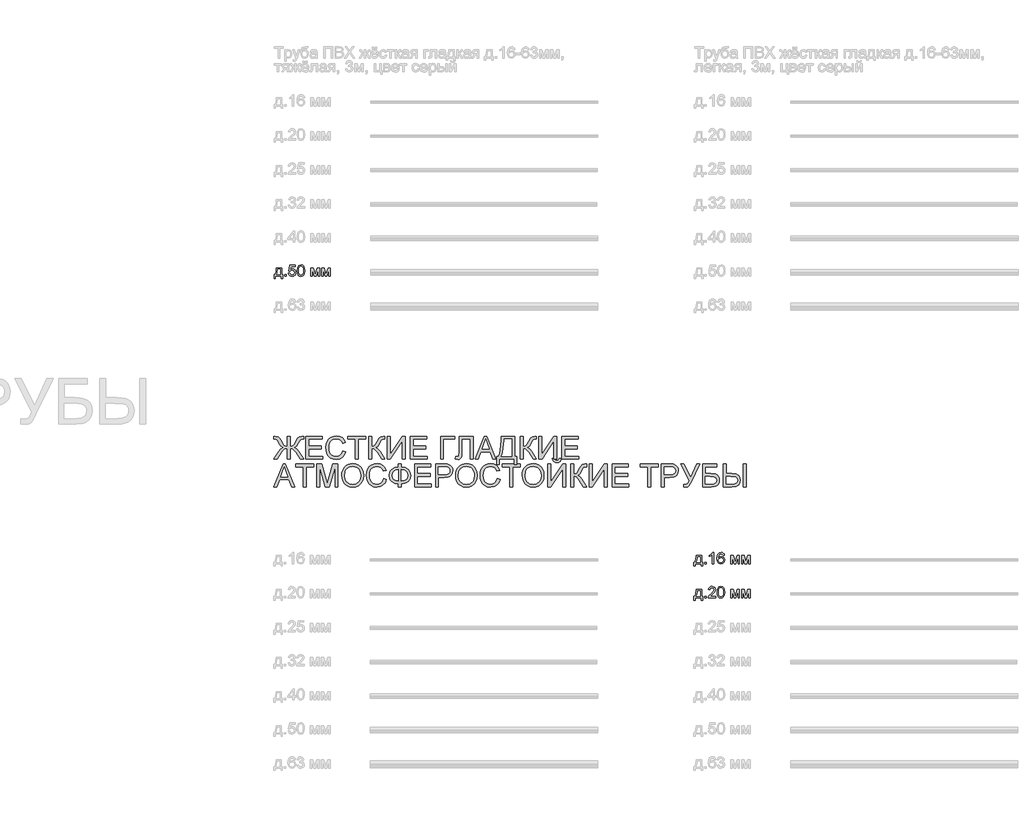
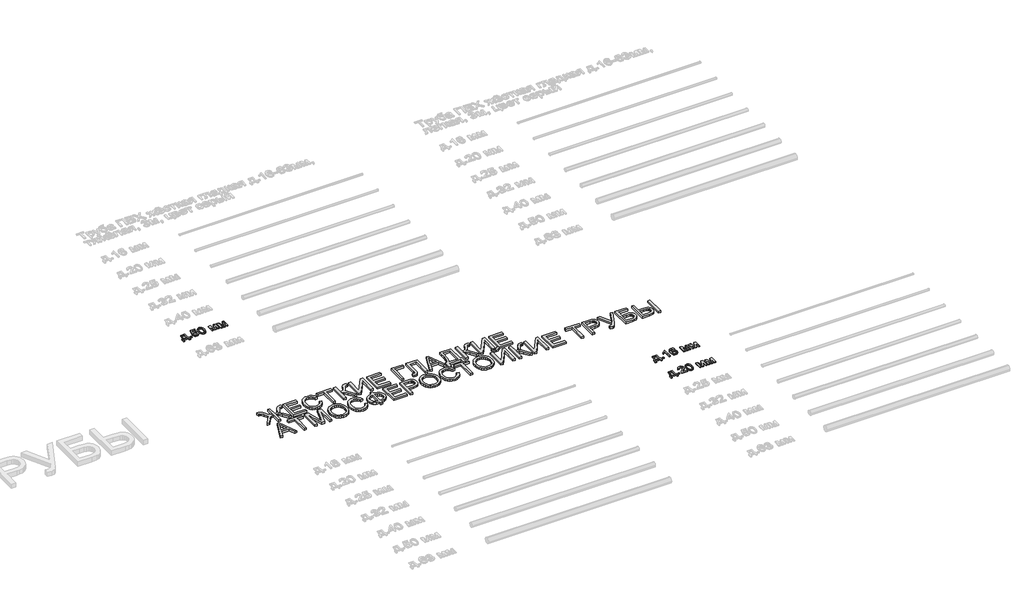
# One storey, part 88 of 98: 4 proxies.
"""IFC4 building model written with IfcOpenShell, lengths in millimetres."""

from ifc_helpers import new_model, si_unit, origin, origin_with_axes, place, context, project, spatial, polyline, outline, extrude, element, save

model = new_model("IFC4")

# Units and contexts
model_context = context("Model", 3, world=origin())
ifc_project = project(units=[si_unit("LENGTHUNIT", "METRE", prefix="MILLI")], contexts=[model_context])

# Site, building, storey
site = spatial("IfcSite", under=ifc_project)
building = spatial("IfcBuilding", under=site)
storey = spatial("IfcBuildingStorey", under=building, Name="Этаж 01", Elevation=0.0)

# Proxies
placement = place(None, origin())
element("IfcBuildingElementProxy", 1, Name="100", ObjectType="100", at=placement, inside=storey, context=model_context, shape_type="SweptSolid", body=[
    extrude(outline(polyline([(-26.9858135, -5063.7647458), (20.1030819, -5063.7647458), (20.1030819, -5124.9803098), (29.520861, -5124.9803098), (29.520861, -5157.9425366), (16.9638222, -5157.9425366), (16.9638222, -5137.5373486), (-34.8339627, -5137.5373486), (-34.8339627, -5157.9425366), (-47.3910015, -5157.9425366), (-47.3910015, -5124.9803098), (-39.5428522, -5124.9803098), (-29.8430303, -5101.031192), (-26.9858135, -5063.7647458)]), holes=[polyline([(-15.9984045, -5076.3217846), (-18.9414605, -5104.9307411), (-25.4161836, -5124.9803098), (7.5460431, -5124.9803098), (7.5460431, -5076.3217846), (-15.9984045, -5076.3217846)])]), origin_with_axes(), (0.0, 0.0, 1.0), 10.0),
    extrude(outline(polyline([(46.7867893, -5137.5373486), (46.7867893, -5124.9803098), (59.3438281, -5124.9803098), (59.3438281, -5137.5373486), (46.7867893, -5137.5373486)])), origin_with_axes(), (0.0, 0.0, 1.0), 10.0),
    extrude(outline(polyline([(79.7490161, -5110.8536412), (92.3060548, -5109.2840114), (98.6336251, -5122.2211949), (111.7547496, -5126.5499397), (120.7555958, -5125.0446892), (127.500099, -5120.5289377), (131.7123479, -5113.5238514), (133.1164308, -5104.5505964), (127.8557183, -5089.6391128), (121.2491708, -5085.5372286), (111.9509534, -5084.1699338), (100.9267563, -5086.3527004), (93.8756847, -5092.0180831), (81.3186459, -5090.4484532), (92.3060548, -5038.6506683), (140.9645801, -5038.6506683), (140.9645801, -5051.2077071), (102.4595979, -5051.2077071), (97.0885208, -5078.8724331), (106.0587101, -5073.4277796), (115.4580951, -5071.6128951), (127.190465, -5073.8631066), (136.9301408, -5080.6137412), (143.4876374, -5090.9021744), (145.6734696, -5103.7657815), (143.7053009, -5116.3228202), (137.8007949, -5127.0649745), (126.4945549, -5136.0964775), (111.7056987, -5139.1069785), (99.3724548, -5137.1725323), (89.5469399, -5131.3691938), (82.8116337, -5122.3714134), (79.7490161, -5110.8536412)])), origin_with_axes(), (0.0, 0.0, 1.0), 10.0),
    extrude(outline(polyline([(156.6608785, -5088.1185339), (160.3519612, -5059.2152718), (171.3148447, -5042.5502175), (189.6231053, -5037.0810385), (204.2893342, -5040.3184), (214.4183518, -5049.65034), (220.3044637, -5064.5127726), (222.5853321, -5088.1185339), (218.9310376, -5116.8991687), (208.0049423, -5133.6010113), (199.7735827, -5137.7304867), (189.6231053, -5139.1069785), (176.5755572, -5136.7157455), (166.6672688, -5129.5420466), (159.1624761, -5112.5520298), (156.6608785, -5088.1185339)]), holes=[polyline([(169.2179173, -5088.0940085), (170.6894453, -5107.8462059), (175.1040292, -5119.2781389), (181.6768542, -5124.7319895), (189.6231053, -5126.5499397), (197.5693564, -5124.7258581), (204.1421814, -5119.2536135), (208.5567653, -5107.8155491), (210.0282933, -5088.0940085), (208.6058162, -5068.7863351), (204.3383851, -5057.2654973), (197.7778228, -5051.5449322), (189.4759525, -5049.6380772), (181.6155405, -5051.3180717), (175.3002329, -5056.358055), (170.7384962, -5068.5962627), (169.2179173, -5088.0940085)])]), origin_with_axes(), (0.0, 0.0, 1.0), 10.0),
    extrude(outline(polyline([(275.9527468, -5063.7647458), (297.5596827, -5063.7647458), (314.2124743, -5122.8220688), (332.1651157, -5063.7647458), (352.8646093, -5063.7647458), (352.8646093, -5137.5373486), (340.3075705, -5137.5373486), (340.3075705, -5078.1366691), (322.2568273, -5137.5373486), (305.7757139, -5137.5373486), (288.5097856, -5075.291715), (288.5097856, -5137.5373486), (275.9527468, -5137.5373486), (275.9527468, -5063.7647458)])), origin_with_axes(), (0.0, 0.0, 1.0), 10.0),
    extrude(outline(polyline([(371.7001674, -5063.7647458), (393.3071033, -5063.7647458), (409.9598949, -5122.8220688), (427.9125363, -5063.7647458), (448.6120299, -5063.7647458), (448.6120299, -5137.5373486), (436.0549911, -5137.5373486), (436.0549911, -5078.1366691), (418.0042479, -5137.5373486), (401.5231345, -5137.5373486), (384.2572062, -5075.291715), (384.2572062, -5137.5373486), (371.7001674, -5137.5373486), (371.7001674, -5063.7647458)])), origin_with_axes(), (0.0, 0.0, 1.0), 10.0),
])
element("IfcBuildingElementProxy", 2, Name="100", ObjectType="100", at=placement, inside=storey, context=model_context, shape_type="SweptSolid", body=[
    extrude(outline(polyline([(3670.1856084, -7596.7269726), (3717.2745038, -7596.7269726), (3717.2745038, -7657.9425366), (3726.6922829, -7657.9425366), (3726.6922829, -7690.9047634), (3714.1352441, -7690.9047634), (3714.1352441, -7670.4995754), (3662.3374592, -7670.4995754), (3662.3374592, -7690.9047634), (3649.7804204, -7690.9047634), (3649.7804204, -7657.9425366), (3657.6285697, -7657.9425366), (3667.3283916, -7633.9934187), (3670.1856084, -7596.7269726)]), holes=[polyline([(3681.1730173, -7609.2840114), (3678.2299614, -7637.8929679), (3671.7552383, -7657.9425366), (3704.717465, -7657.9425366), (3704.717465, -7609.2840114), (3681.1730173, -7609.2840114)])]), origin_with_axes(), (0.0, 0.0, 1.0), 10.0),
    extrude(outline(polyline([(3743.9582112, -7670.4995754), (3743.9582112, -7657.9425366), (3756.51525, -7657.9425366), (3756.51525, -7670.4995754), (3743.9582112, -7670.4995754)])), origin_with_axes(), (0.0, 0.0, 1.0), 10.0),
    extrude(outline(polyline([(3824.0093333, -7670.4995754), (3811.4522946, -7670.4995754), (3811.4522946, -7592.2142868), (3799.5574434, -7600.6878354), (3786.338217, -7607.0276685), (3786.338217, -7595.1573428), (3804.7445795, -7583.4096444), (3815.9159294, -7570.0432652), (3824.0093333, -7570.0432652), (3824.0093333, -7670.4995754)])), origin_with_axes(), (0.0, 0.0, 1.0), 10.0),
    extrude(outline(polyline([(3918.1871241, -7596.7269726), (3905.6300853, -7598.2966025), (3900.8721449, -7587.8242283), (3888.2905806, -7582.600304), (3876.9598152, -7585.6414618), (3868.3881647, -7597.0580664), (3864.8197093, -7619.4375545), (3875.8929574, -7609.4189014), (3889.6149558, -7606.1447517), (3901.2155014, -7608.3827005), (3910.9521115, -7615.0965469), (3917.5555933, -7625.3543232), (3919.7567539, -7638.2240617), (3915.6119501, -7655.5513036), (3904.2076083, -7667.8140368), (3887.7510204, -7672.0692052), (3873.5047901, -7669.2487766), (3862.1586962, -7660.7874907), (3854.736677, -7645.8514817), (3852.2626706, -7623.6068837), (3855.0095228, -7598.5970394), (3863.2500795, -7581.496658), (3874.5011372, -7572.9066134), (3889.0753956, -7570.0432652), (3900.0934613, -7571.8152302), (3908.9164978, -7577.131125), (3915.0969153, -7585.5740168), (3918.1871241, -7596.7269726)]), holes=[polyline([(3864.8197093, -7638.0278579), (3867.7259771, -7648.9049023), (3875.451499, -7656.8021024), (3886.7700017, -7659.5121665), (3895.0565437, -7658.1080835), (3901.5711207, -7653.8958347), (3905.7925665, -7647.2739588), (3907.1997152, -7638.6409946), (3905.8109606, -7630.3544527), (3901.6446971, -7624.0360794), (3895.0197555, -7620.0353627), (3886.2549669, -7618.7017905), (3871.0614405, -7624.0360794), (3866.3801421, -7630.2011685), (3864.8197093, -7638.0278579)])]), origin_with_axes(), (0.0, 0.0, 1.0), 10.0),
    extrude(outline(polyline([(3973.1241687, -7596.7269726), (3994.7311046, -7596.7269726), (4011.3838962, -7655.7842956), (4029.3365376, -7596.7269726), (4050.0360312, -7596.7269726), (4050.0360312, -7670.4995754), (4037.4789924, -7670.4995754), (4037.4789924, -7611.0988959), (4019.4282492, -7670.4995754), (4002.9471358, -7670.4995754), (3985.6812075, -7608.2539418), (3985.6812075, -7670.4995754), (3973.1241687, -7670.4995754), (3973.1241687, -7596.7269726)])), origin_with_axes(), (0.0, 0.0, 1.0), 10.0),
    extrude(outline(polyline([(4068.8715893, -7596.7269726), (4090.4785252, -7596.7269726), (4107.1313168, -7655.7842956), (4125.0839582, -7596.7269726), (4145.7834518, -7596.7269726), (4145.7834518, -7670.4995754), (4133.226413, -7670.4995754), (4133.226413, -7611.0988959), (4115.1756698, -7670.4995754), (4098.6945564, -7670.4995754), (4081.4286281, -7608.2539418), (4081.4286281, -7670.4995754), (4068.8715893, -7670.4995754), (4068.8715893, -7596.7269726)])), origin_with_axes(), (0.0, 0.0, 1.0), 10.0),
])
element("IfcBuildingElementProxy", 3, Name="100", ObjectType="100", at=placement, inside=storey, context=model_context, shape_type="SweptSolid", body=[
    extrude(outline(polyline([(3670.1856084, -7896.7269726), (3717.2745038, -7896.7269726), (3717.2745038, -7957.9425366), (3726.6922829, -7957.9425366), (3726.6922829, -7990.9047634), (3714.1352441, -7990.9047634), (3714.1352441, -7970.4995754), (3662.3374592, -7970.4995754), (3662.3374592, -7990.9047634), (3649.7804204, -7990.9047634), (3649.7804204, -7957.9425366), (3657.6285697, -7957.9425366), (3667.3283916, -7933.9934187), (3670.1856084, -7896.7269726)]), holes=[polyline([(3681.1730173, -7909.2840114), (3678.2299614, -7937.8929679), (3671.7552383, -7957.9425366), (3704.717465, -7957.9425366), (3704.717465, -7909.2840114), (3681.1730173, -7909.2840114)])]), origin_with_axes(), (0.0, 0.0, 1.0), 10.0),
    extrude(outline(polyline([(3743.9582112, -7970.4995754), (3743.9582112, -7957.9425366), (3756.51525, -7957.9425366), (3756.51525, -7970.4995754), (3743.9582112, -7970.4995754)])), origin_with_axes(), (0.0, 0.0, 1.0), 10.0),
    extrude(outline(polyline([(3841.2752616, -7957.9425366), (3841.2752616, -7970.4995754), (3775.3508081, -7970.4995754), (3776.6997088, -7961.8420858), (3784.3271288, -7948.5124948), (3800.0479527, -7933.9566305), (3821.728465, -7913.0364077), (3827.148593, -7898.8116373), (3822.0350333, -7887.2969308), (3808.6809169, -7882.600304), (3794.7627147, -7887.1865662), (3789.4774767, -7899.8662323), (3776.920438, -7898.2966025), (3779.9646615, -7886.1503653), (3786.5466835, -7877.2782778), (3796.3231475, -7871.8520184), (3808.950697, -7870.0432652), (3821.670217, -7872.0543535), (3831.4282869, -7878.0876182), (3837.6362956, -7887.1007271), (3839.7056318, -7898.0513478), (3837.4738144, -7909.9584617), (3830.0548608, -7922.2702458), (3812.0654312, -7939.4748605), (3797.6199315, -7951.5536526), (3791.9545488, -7957.9425366), (3841.2752616, -7957.9425366)])), origin_with_axes(), (0.0, 0.0, 1.0), 10.0),
    extrude(outline(polyline([(3853.8323004, -7921.0807607), (3857.5233831, -7892.1774986), (3868.4862666, -7875.5124442), (3886.7945272, -7870.0432652), (3901.4607561, -7873.2806268), (3911.5897737, -7882.6125667), (3917.4758856, -7897.4749993), (3919.7567539, -7921.0807607), (3916.1024595, -7949.8613955), (3905.1763642, -7966.563238), (3896.9450046, -7970.6927134), (3886.7945272, -7972.0692052), (3873.7469791, -7969.6779723), (3863.8386907, -7962.5042734), (3856.333898, -7945.5142565), (3853.8323004, -7921.0807607)]), holes=[polyline([(3866.3893392, -7921.0562352), (3867.8608672, -7940.8084327), (3872.2754511, -7952.2403657), (3878.8482761, -7957.6942163), (3886.7945272, -7959.5121665), (3894.7407783, -7957.6880849), (3901.3136033, -7952.2158402), (3905.7281872, -7940.7777759), (3907.1997152, -7921.0562352), (3905.7772381, -7901.7485618), (3901.509807, -7890.227724), (3894.9492447, -7884.507159), (3886.6473744, -7882.600304), (3878.7869624, -7884.2802984), (3872.4716548, -7889.3202818), (3867.9099181, -7901.5584895), (3866.3893392, -7921.0562352)])]), origin_with_axes(), (0.0, 0.0, 1.0), 10.0),
    extrude(outline(polyline([(3973.1241687, -7896.7269726), (3994.7311046, -7896.7269726), (4011.3838962, -7955.7842956), (4029.3365376, -7896.7269726), (4050.0360312, -7896.7269726), (4050.0360312, -7970.4995754), (4037.4789924, -7970.4995754), (4037.4789924, -7911.0988959), (4019.4282492, -7970.4995754), (4002.9471358, -7970.4995754), (3985.6812075, -7908.2539418), (3985.6812075, -7970.4995754), (3973.1241687, -7970.4995754), (3973.1241687, -7896.7269726)])), origin_with_axes(), (0.0, 0.0, 1.0), 10.0),
    extrude(outline(polyline([(4068.8715893, -7896.7269726), (4090.4785252, -7896.7269726), (4107.1313168, -7955.7842956), (4125.0839582, -7896.7269726), (4145.7834518, -7896.7269726), (4145.7834518, -7970.4995754), (4133.226413, -7970.4995754), (4133.226413, -7911.0988959), (4115.1756698, -7970.4995754), (4098.6945564, -7970.4995754), (4081.4286281, -7908.2539418), (4081.4286281, -7970.4995754), (4068.8715893, -7970.4995754), (4068.8715893, -7896.7269726)])), origin_with_axes(), (0.0, 0.0, 1.0), 10.0),
])
element("IfcBuildingElementProxy", 4, Name="200", ObjectType="200", at=placement, inside=storey, context=model_context, shape_type="SweptSolid", body=[
    extrude(outline(polyline([(93.8756847, -6547.6121372), (93.8756847, -6635.5114086), (112.245259, -6633.8191514), (123.7967536, -6628.7423799), (132.834388, -6616.9946815), (143.6623814, -6595.2896438), (157.8871518, -6567.2079848), (173.8041795, -6553.2529945), (196.4411849, -6547.6121372), (213.167553, -6547.9064428), (213.167553, -6572.7262148), (207.6738485, -6572.579062), (202.0329913, -6572.4319092), (190.2975556, -6573.9647508), (182.0692617, -6578.5632758), (166.8634725, -6604.2169136), (150.7992921, -6632.9362347), (131.1053426, -6645.6159008), (150.9587076, -6657.3390737), (170.1989359, -6681.5211835), (213.167553, -6748.5247575), (183.982248, -6748.5247575), (147.537405, -6691.6747265), (122.447853, -6662.7837272), (110.2157766, -6656.4561569), (93.8756847, -6654.3469668), (93.8756847, -6748.5247575), (68.7616071, -6748.5247575), (68.7616071, -6654.3469668), (55.0089519, -6655.9840416), (42.985342, -6660.8952663), (30.8881557, -6671.2143562), (16.9147713, -6689.0750271), (15.0998868, -6691.6747265), (-21.3449562, -6748.5247575), (-50.5302612, -6748.5247575), (-7.6106951, -6681.5211835), (11.8502625, -6657.2654973), (31.5810002, -6645.6159008), (12.9416457, -6634.2606098), (-4.2261807, -6604.2169136), (-19.8734282, -6578.0237155), (-27.9545694, -6574.05059), (-39.2485466, -6572.7262148), (-50.5302612, -6573.0205204), (-50.5302612, -6547.9064428), (-34.6868099, -6547.6121372), (-11.1423622, -6553.1303672), (4.4803599, -6566.9627302), (18.9749105, -6595.3386947), (29.8090352, -6617.2828558), (38.7669618, -6628.8650072), (50.2755369, -6633.7271809), (68.7616071, -6635.5114086), (68.7616071, -6547.6121372), (93.8756847, -6547.6121372)])), origin_with_axes(), (0.0, 0.0, 1.0), 20.0),
    extrude(outline(polyline([(232.0031111, -6748.5247575), (232.0031111, -6547.6121372), (376.409057, -6547.6121372), (376.409057, -6572.7262148), (257.1171887, -6572.7262148), (257.1171887, -6632.3721489), (370.1305376, -6632.3721489), (370.1305376, -6657.4862265), (257.1171887, -6657.4862265), (257.1171887, -6723.41068), (379.5483167, -6723.41068), (379.5483167, -6748.5247575), (232.0031111, -6748.5247575)])), origin_with_axes(), (0.0, 0.0, 1.0), 20.0),
    extrude(outline(polyline([(558.4861191, -6677.1065995), (583.6001967, -6683.5813227), (572.0119138, -6712.8463354), (553.8262805, -6734.2264107), (529.9384763, -6747.3046156), (501.2436807, -6751.6640172), (472.113558, -6748.365342), (448.9799119, -6738.4693163), (431.2479997, -6722.3192967), (418.323079, -6700.2586398), (410.4320102, -6674.3229591), (407.8016539, -6646.5478685), (410.7753667, -6617.2521989), (419.6965051, -6591.9541804), (434.0990852, -6571.4570219), (453.5171232, -6556.5639325), (476.5465361, -6547.4956413), (501.7832409, -6544.4728775), (529.3192083, -6548.3846894), (552.0849724, -6560.1201251), (569.3692948, -6578.9556832), (580.460937, -6604.1678626), (555.3468594, -6610.1520764), (546.6403189, -6591.8376844), (534.7454677, -6579.2745143), (519.5151531, -6572.0088449), (500.8022223, -6569.5869551), (479.2320746, -6572.2724936), (461.5124252, -6580.3291093), (448.0663383, -6592.9106736), (439.3168781, -6609.1710578), (434.5160181, -6627.5528948), (432.9157314, -6646.4988175), (434.8103237, -6669.6999087), (440.4941005, -6689.7617402), (450.1816597, -6705.9178911), (464.0875992, -6717.4019407), (480.7587849, -6724.26294), (498.7420831, -6726.5499397), (519.7052255, -6723.4352055), (537.1734889, -6714.0910028), (550.3620584, -6698.6154335), (558.4861191, -6677.1065995)])), origin_with_axes(), (0.0, 0.0, 1.0), 20.0),
    extrude(outline(polyline([(668.3602083, -6748.5247575), (668.3602083, -6572.7262148), (602.4357548, -6572.7262148), (602.4357548, -6547.6121372), (759.3987394, -6547.6121372), (759.3987394, -6572.7262148), (693.4742859, -6572.7262148), (693.4742859, -6748.5247575), (668.3602083, -6748.5247575)])), origin_with_axes(), (0.0, 0.0, 1.0), 20.0),
    extrude(outline(polyline([(787.6520766, -6547.6121372), (812.7661542, -6547.6121372), (812.7661542, -6635.5114086), (829.7684337, -6633.8498083), (840.8478132, -6628.8650072), (849.8057397, -6617.135703), (860.4436608, -6595.2405929), (874.3005492, -6567.1589339), (889.9968477, -6553.2529945), (912.4376494, -6547.6121372), (928.9187628, -6547.9064428), (928.9187628, -6573.0205204), (923.3760074, -6572.8733676), (917.833252, -6572.7262148), (906.3308083, -6574.234531), (898.2128789, -6578.7594795), (883.3013954, -6604.609321), (865.5204323, -6636.1000198), (848.1809276, -6646.4988175), (867.5683087, -6657.8541085), (886.6859098, -6681.5211835), (928.9187628, -6748.5247575), (899.7825088, -6748.5247575), (864.0734298, -6691.9199812), (838.9348268, -6662.3667943), (827.3281498, -6656.3519236), (812.7661542, -6654.3469668), (812.7661542, -6748.5247575), (787.6520766, -6748.5247575), (787.6520766, -6547.6121372)])), origin_with_axes(), (0.0, 0.0, 1.0), 20.0),
    extrude(outline(polyline([(950.8935806, -6547.6121372), (976.0076582, -6547.6121372), (976.0076582, -6706.7333629), (1081.1728579, -6547.6121372), (1107.8565653, -6547.6121372), (1107.8565653, -6748.5247575), (1082.7424877, -6748.5247575), (1082.7424877, -6589.8449903), (977.8225427, -6748.5247575), (950.8935806, -6748.5247575), (950.8935806, -6547.6121372)])), origin_with_axes(), (0.0, 0.0, 1.0), 20.0),
    extrude(outline(polyline([(1151.8062009, -6748.5247575), (1151.8062009, -6547.6121372), (1296.2121468, -6547.6121372), (1296.2121468, -6572.7262148), (1176.9202785, -6572.7262148), (1176.9202785, -6632.3721489), (1289.9336274, -6632.3721489), (1289.9336274, -6657.4862265), (1176.9202785, -6657.4862265), (1176.9202785, -6723.41068), (1299.3514065, -6723.41068), (1299.3514065, -6748.5247575), (1151.8062009, -6748.5247575)])), origin_with_axes(), (0.0, 0.0, 1.0), 20.0),
    extrude(outline(polyline([(1418.6432748, -6547.6121372), (1544.2136625, -6547.6121372), (1544.2136625, -6572.7262148), (1443.7573523, -6572.7262148), (1443.7573523, -6748.5247575), (1418.6432748, -6748.5247575), (1418.6432748, -6547.6121372)])), origin_with_axes(), (0.0, 0.0, 1.0), 20.0),
    extrude(outline(polyline([(1581.8847788, -6547.6121372), (1704.3159068, -6547.6121372), (1704.3159068, -6748.5247575), (1679.2018292, -6748.5247575), (1679.2018292, -6572.7262148), (1606.9988563, -6572.7262148), (1606.9988563, -6675.2426641), (1604.0803258, -6720.9826588), (1599.5615086, -6733.9075796), (1591.8421181, -6743.5951388), (1581.2716421, -6749.6467976), (1568.1995685, -6751.6640172), (1547.3529222, -6748.5247575), (1550.4921818, -6723.41068), (1562.5096604, -6726.5499397), (1571.0016031, -6724.8638139), (1577.0532619, -6719.8054364), (1580.6768996, -6708.4930651), (1581.8847788, -6688.0449575), (1581.8847788, -6547.6121372)])), origin_with_axes(), (0.0, 0.0, 1.0), 20.0),
    extrude(outline(polyline([(1724.8682476, -6748.5247575), (1805.0665225, -6547.6121372), (1826.4527292, -6547.6121372), (1906.6510041, -6748.5247575), (1880.1144495, -6748.5247575), (1857.1095621, -6685.7395637), (1774.3606386, -6685.7395637), (1751.4048021, -6748.5247575), (1724.8682476, -6748.5247575)]), holes=[polyline([(1783.582214, -6660.6254862), (1847.9370377, -6660.6254862), (1829.8372435, -6611.2311969), (1815.7596258, -6572.7262148), (1803.251638, -6606.9147149), (1783.582214, -6660.6254862)])]), origin_with_axes(), (0.0, 0.0, 1.0), 20.0),
    extrude(outline(polyline([(1952.3174224, -6547.6121372), (2071.6092907, -6547.6121372), (2071.6092907, -6723.41068), (2090.4448489, -6723.41068), (2090.4448489, -6795.6136529), (2065.3307714, -6795.6136529), (2065.3307714, -6748.5247575), (1936.621124, -6748.5247575), (1936.621124, -6795.6136529), (1911.5070464, -6795.6136529), (1911.5070464, -6723.41068), (1927.2033449, -6723.41068), (1938.1907538, -6700.6295874), (1946.0389031, -6668.584), (1950.7477926, -6627.2739176), (1952.3174224, -6576.6993403), (1952.3174224, -6547.6121372)]), holes=[polyline([(2046.4952132, -6572.7262148), (1977.4315, -6572.7262148), (1977.4315, -6582.8307069), (1972.330203, -6651.6491655), (1964.7763593, -6691.4172092), (1952.3174224, -6723.41068), (2046.4952132, -6723.41068), (2046.4952132, -6572.7262148)])]), origin_with_axes(), (0.0, 0.0, 1.0), 20.0),
    extrude(outline(polyline([(2121.8374458, -6547.6121372), (2146.9515234, -6547.6121372), (2146.9515234, -6635.5114086), (2163.9538029, -6633.8498083), (2175.0331823, -6628.8650072), (2183.9911089, -6617.135703), (2194.6290299, -6595.2405929), (2208.4859184, -6567.1589339), (2224.1822169, -6553.2529945), (2246.6230186, -6547.6121372), (2263.104132, -6547.9064428), (2263.104132, -6573.0205204), (2257.5613766, -6572.8733676), (2252.0186212, -6572.7262148), (2240.5161775, -6574.234531), (2232.3982481, -6578.7594795), (2217.4867646, -6604.609321), (2199.7058015, -6636.1000198), (2182.3662968, -6646.4988175), (2201.7536779, -6657.8541085), (2220.8712789, -6681.5211835), (2263.104132, -6748.5247575), (2233.967878, -6748.5247575), (2198.258799, -6691.9199812), (2173.120196, -6662.3667943), (2161.513519, -6656.3519236), (2146.9515234, -6654.3469668), (2146.9515234, -6748.5247575), (2121.8374458, -6748.5247575), (2121.8374458, -6547.6121372)])), origin_with_axes(), (0.0, 0.0, 1.0), 20.0),
    extrude(outline(polyline([(2285.0789498, -6547.6121372), (2310.1930274, -6547.6121372), (2310.1930274, -6706.7333629), (2415.358227, -6547.6121372), (2442.0419344, -6547.6121372), (2442.0419344, -6748.5247575), (2416.9278569, -6748.5247575), (2416.9278569, -6589.8449903), (2312.0079119, -6748.5247575), (2285.0789498, -6748.5247575), (2285.0789498, -6547.6121372)])), origin_with_axes(), (0.0, 0.0, 1.0), 20.0),
    extrude(outline(polyline([(2485.9915701, -6748.5247575), (2485.9915701, -6547.6121372), (2630.397516, -6547.6121372), (2630.397516, -6572.7262148), (2511.1056477, -6572.7262148), (2511.1056477, -6632.3721489), (2624.1189966, -6632.3721489), (2624.1189966, -6657.4862265), (2511.1056477, -6657.4862265), (2511.1056477, -6723.41068), (2633.5367756, -6723.41068), (2633.5367756, -6748.5247575), (2485.9915701, -6748.5247575)])), origin_with_axes(), (0.0, 0.0, 1.0), 20.0),
    extrude(outline(polyline([(-48.8134785, -6992.4743932), (31.3847964, -6791.5617729), (52.7710031, -6791.5617729), (132.969278, -6992.4743932), (106.4327234, -6992.4743932), (83.427836, -6929.6891994), (0.6789126, -6929.6891994), (-22.2769239, -6992.4743932), (-48.8134785, -6992.4743932)]), holes=[polyline([(9.9004879, -6904.5751218), (74.2553116, -6904.5751218), (56.1555174, -6855.1808326), (42.0778998, -6816.6758505), (29.5699119, -6850.8643505), (9.9004879, -6904.5751218)])]), origin_with_axes(), (0.0, 0.0, 1.0), 20.0),
    extrude(outline(polyline([(210.0282933, -6992.4743932), (210.0282933, -6816.6758505), (144.1038398, -6816.6758505), (144.1038398, -6791.5617729), (301.0668244, -6791.5617729), (301.0668244, -6816.6758505), (235.1423708, -6816.6758505), (235.1423708, -6992.4743932), (210.0282933, -6992.4743932)])), origin_with_axes(), (0.0, 0.0, 1.0), 20.0),
    extrude(outline(polyline([(329.3201616, -6992.4743932), (329.3201616, -6791.5617729), (372.5340333, -6791.5617729), (413.6387149, -6933.1718156), (421.9283225, -6962.749528), (430.9046432, -6930.719269), (471.3226117, -6791.5617729), (514.5364834, -6791.5617729), (514.5364834, -6992.4743932), (489.4224059, -6992.4743932), (489.4224059, -6816.6758505), (438.9489962, -6992.4743932), (404.9076489, -6992.4743932), (354.4342391, -6816.6758505), (354.4342391, -6992.4743932), (329.3201616, -6992.4743932)])), origin_with_axes(), (0.0, 0.0, 1.0), 20.0),
    extrude(outline(polyline([(549.06834, -6894.6668334), (550.7422031, -6871.100926), (555.7637924, -6850.2389512), (564.1331077, -6832.080909), (575.8501493, -6816.6267995), (590.2128755, -6804.2874243), (606.519245, -6795.4735848), (624.7692576, -6790.1852811), (644.9629135, -6788.4225132), (671.315527, -6791.7334512), (694.9458139, -6801.6662651), (714.5661869, -6817.5219791), (728.8890593, -6838.6016174), (737.6446508, -6863.8873732), (740.5631813, -6892.3614396), (737.4913666, -6921.2156508), (728.2759226, -6946.8570258), (713.4257528, -6967.9734523), (693.4497604, -6983.2528179), (670.0218087, -6992.5234442), (644.8157607, -6995.6136529), (618.0584769, -6992.1984817), (594.2933, -6981.9529682), (574.7219778, -6965.8029486), (560.5462583, -6944.6742593), (551.9378196, -6920.3633908), (549.06834, -6894.6668334)]), holes=[polyline([(574.1824176, -6894.9120881), (579.2040068, -6926.3414732), (594.2687745, -6950.2905911), (616.9119113, -6965.4473293), (644.6686079, -6970.4995754), (672.8299746, -6965.3982784), (695.5098996, -6950.0943874), (704.2333014, -6938.8218699), (710.4643027, -6925.4095055), (715.4491037, -6892.1652359), (713.3153882, -6869.9329006), (706.9142414, -6850.7171978), (696.4112105, -6835.0025052), (681.9718422, -6823.2732009), (664.5526297, -6815.9707433), (645.1100663, -6813.5365908), (618.0952651, -6818.2270862), (595.1271658, -6832.2985725), (585.9638385, -6843.2476604), (579.4186046, -6857.3329423), (574.1824176, -6894.9120881)])]), origin_with_axes(), (0.0, 0.0, 1.0), 20.0),
    extrude(outline(polyline([(916.361724, -6921.0562352), (941.4758016, -6927.5309583), (929.8875187, -6956.7959711), (911.7018854, -6978.1760463), (887.8140812, -6991.2542513), (859.1192856, -6995.6136529), (829.9891629, -6992.3149777), (806.8555168, -6982.418952), (789.1236046, -6966.2689324), (776.1986839, -6944.2082755), (768.3076151, -6918.2725948), (765.6772588, -6890.4975042), (768.6509716, -6861.2018346), (777.57211, -6835.9038161), (791.9746901, -6815.4066576), (811.3927281, -6800.5135681), (834.422141, -6791.445277), (859.6588458, -6788.4225132), (887.1948132, -6792.3343251), (909.9605773, -6804.0697608), (927.2448997, -6822.9053189), (938.3365419, -6848.1174983), (913.2224643, -6854.1017121), (904.5159238, -6835.7873201), (892.6210726, -6823.22415), (877.390758, -6815.9584806), (858.6778272, -6813.5365908), (837.1076795, -6816.2221293), (819.3880301, -6824.278745), (805.9419432, -6836.8603093), (797.1924831, -6853.1206935), (792.391623, -6871.5025305), (790.7913363, -6890.4484532), (792.6859286, -6913.6495444), (798.3697054, -6933.7113759), (808.0572646, -6949.8675268), (821.9632041, -6961.3515764), (838.6343898, -6968.2125756), (856.617688, -6970.4995754), (877.5808304, -6967.3848412), (895.0490938, -6958.0406385), (908.2376633, -6942.5650692), (916.361724, -6921.0562352)])), origin_with_axes(), (0.0, 0.0, 1.0), 20.0),
    extrude(outline(polyline([(1048.2106311, -6816.6758505), (1048.2106311, -6791.5617729), (1073.3247086, -6791.5617729), (1073.3247086, -6816.6758505), (1107.1637208, -6823.4694046), (1133.0442192, -6839.7297888), (1149.4701503, -6863.2864993), (1154.9454606, -6891.9690321), (1149.6418285, -6920.1855812), (1133.7309322, -6943.815868), (1122.0000951, -6953.2888294), (1108.0221121, -6960.3705578), (1073.3247086, -6967.3603157), (1073.3247086, -6992.4743932), (1048.2106311, -6992.4743932), (1048.2106311, -6967.3603157), (1016.1190584, -6961.2473432), (989.8890721, -6945.655278), (979.6956752, -6934.6755333), (972.4146774, -6922.0679107), (966.5898791, -6891.9690321), (972.3962833, -6861.7781831), (979.6542885, -6849.2027502), (989.8154957, -6838.3073118), (1016.0270879, -6822.8440053), (1048.2106311, -6816.6758505)]), holes=[polyline([(1073.3247086, -6841.789928), (1073.3247086, -6942.2462382), (1096.8201054, -6938.095303), (1114.7236958, -6927.9969422), (1126.0544613, -6912.4661906), (1129.8313831, -6892.0180831), (1126.1219063, -6871.845887), (1114.993476, -6856.358055), (1097.1573306, -6846.1431983), (1073.3247086, -6841.789928)]), polyline([(1048.2106311, -6841.789928), (1025.3590278, -6845.8121045), (1007.3266787, -6855.8184948), (995.6096372, -6871.3676404), (991.7039566, -6892.0180831), (995.5605862, -6912.5152416), (1007.130475, -6928.0950441), (1025.1137732, -6938.1934048), (1048.2106311, -6942.2462382), (1048.2106311, -6841.789928)])]), origin_with_axes(), (0.0, 0.0, 1.0), 20.0),
    extrude(outline(polyline([(1189.4773172, -6992.4743932), (1189.4773172, -6791.5617729), (1333.8832631, -6791.5617729), (1333.8832631, -6816.6758505), (1214.5913948, -6816.6758505), (1214.5913948, -6876.3217846), (1327.6047437, -6876.3217846), (1327.6047437, -6901.4358622), (1214.5913948, -6901.4358622), (1214.5913948, -6967.3603157), (1337.0225228, -6967.3603157), (1337.0225228, -6992.4743932), (1189.4773172, -6992.4743932)])), origin_with_axes(), (0.0, 0.0, 1.0), 20.0),
    extrude(outline(polyline([(1374.6936391, -6992.4743932), (1374.6936391, -6791.5617729), (1449.1529549, -6791.5617729), (1479.1721257, -6793.4747593), (1503.5749647, -6802.8680129), (1512.4470522, -6811.1944087), (1519.3938905, -6822.2921823), (1523.8820509, -6835.3826499), (1525.3781043, -6849.6871282), (1521.3375337, -6873.3664659), (1509.215822, -6893.0972036), (1499.5083358, -6900.8656451), (1486.5481597, -6906.4145318), (1450.8697376, -6910.8536412), (1399.8077166, -6910.8536412), (1399.8077166, -6992.4743932), (1374.6936391, -6992.4743932)]), holes=[polyline([(1399.8077166, -6885.7395637), (1452.3412655, -6885.7395637), (1474.610389, -6883.4341699), (1489.3256688, -6876.5179883), (1497.5294373, -6865.4202148), (1500.2640268, -6850.570045), (1498.6514774, -6839.2883304), (1493.8138291, -6829.7724495), (1486.351956, -6822.6110133), (1476.8667319, -6818.3926331), (1451.7526543, -6816.6758505), (1399.8077166, -6816.6758505), (1399.8077166, -6885.7395637)])]), origin_with_axes(), (0.0, 0.0, 1.0), 20.0),
    extrude(outline(polyline([(1550.4921818, -6894.6668334), (1552.1660449, -6871.100926), (1557.1876342, -6850.2389512), (1565.5569496, -6832.080909), (1577.2739911, -6816.6267995), (1591.6367173, -6804.2874243), (1607.9430868, -6795.4735848), (1626.1930994, -6790.1852811), (1646.3867553, -6788.4225132), (1672.7393688, -6791.7334512), (1696.3696557, -6801.6662651), (1715.9900287, -6817.5219791), (1730.3129011, -6838.6016174), (1739.0684926, -6863.8873732), (1741.9870231, -6892.3614396), (1738.9152084, -6921.2156508), (1729.6997644, -6946.8570258), (1714.8495946, -6967.9734523), (1694.8736022, -6983.2528179), (1671.4456505, -6992.5234442), (1646.2396025, -6995.6136529), (1619.4823187, -6992.1984817), (1595.7171418, -6981.9529682), (1576.1458196, -6965.8029486), (1561.9701001, -6944.6742593), (1553.3616614, -6920.3633908), (1550.4921818, -6894.6668334)]), holes=[polyline([(1575.6062594, -6894.9120881), (1580.6278486, -6926.3414732), (1595.6926163, -6950.2905911), (1618.3357531, -6965.4473293), (1646.0924497, -6970.4995754), (1674.2538164, -6965.3982784), (1696.9337414, -6950.0943874), (1705.6571432, -6938.8218699), (1711.8881445, -6925.4095055), (1716.8729455, -6892.1652359), (1714.73923, -6869.9329006), (1708.3380832, -6850.7171978), (1697.8350523, -6835.0025052), (1683.395684, -6823.2732009), (1665.9764715, -6815.9707433), (1646.5339081, -6813.5365908), (1619.5191069, -6818.2270862), (1596.5510076, -6832.2985725), (1587.3876803, -6843.2476604), (1580.8424464, -6857.3329423), (1575.6062594, -6894.9120881)])]), origin_with_axes(), (0.0, 0.0, 1.0), 20.0),
    extrude(outline(polyline([(1917.7855658, -6921.0562352), (1942.8996434, -6927.5309583), (1931.3113605, -6956.7959711), (1913.1257272, -6978.1760463), (1889.237923, -6991.2542513), (1860.5431274, -6995.6136529), (1831.4130047, -6992.3149777), (1808.2793586, -6982.418952), (1790.5474464, -6966.2689324), (1777.6225257, -6944.2082755), (1769.7314569, -6918.2725948), (1767.1011006, -6890.4975042), (1770.0748134, -6861.2018346), (1778.9959518, -6835.9038161), (1793.3985319, -6815.4066576), (1812.8165699, -6800.5135681), (1835.8459828, -6791.445277), (1861.0826876, -6788.4225132), (1888.618655, -6792.3343251), (1911.3844191, -6804.0697608), (1928.6687415, -6822.9053189), (1939.7603837, -6848.1174983), (1914.6463061, -6854.1017121), (1905.9397656, -6835.7873201), (1894.0449144, -6823.22415), (1878.8145998, -6815.9584806), (1860.101669, -6813.5365908), (1838.5315213, -6816.2221293), (1820.8118719, -6824.278745), (1807.365785, -6836.8603093), (1798.6163249, -6853.1206935), (1793.8154648, -6871.5025305), (1792.2151781, -6890.4484532), (1794.1097704, -6913.6495444), (1799.7935472, -6933.7113759), (1809.4811065, -6949.8675268), (1823.3870459, -6961.3515764), (1840.0582316, -6968.2125756), (1858.0415298, -6970.4995754), (1879.0046722, -6967.3848412), (1896.4729356, -6958.0406385), (1909.6615051, -6942.5650692), (1917.7855658, -6921.0562352)])), origin_with_axes(), (0.0, 0.0, 1.0), 20.0),
    extrude(outline(polyline([(2027.6596551, -6992.4743932), (2027.6596551, -6816.6758505), (1961.7352015, -6816.6758505), (1961.7352015, -6791.5617729), (2118.6981861, -6791.5617729), (2118.6981861, -6816.6758505), (2052.7737326, -6816.6758505), (2052.7737326, -6992.4743932), (2027.6596551, -6992.4743932)])), origin_with_axes(), (0.0, 0.0, 1.0), 20.0),
    extrude(outline(polyline([(2137.5337443, -6894.6668334), (2139.2076074, -6871.100926), (2144.2291966, -6850.2389512), (2152.598512, -6832.080909), (2164.3155535, -6816.6267995), (2178.6782798, -6804.2874243), (2194.9846492, -6795.4735848), (2213.2346618, -6790.1852811), (2233.4283177, -6788.4225132), (2259.7809313, -6791.7334512), (2283.4112181, -6801.6662651), (2303.0315912, -6817.5219791), (2317.3544635, -6838.6016174), (2326.110055, -6863.8873732), (2329.0285855, -6892.3614396), (2325.9567708, -6921.2156508), (2316.7413269, -6946.8570258), (2301.891157, -6967.9734523), (2281.9151647, -6983.2528179), (2258.4872129, -6992.5234442), (2233.2811649, -6995.6136529), (2206.5238811, -6992.1984817), (2182.7587042, -6981.9529682), (2163.1873821, -6965.8029486), (2149.0116625, -6944.6742593), (2140.4032238, -6920.3633908), (2137.5337443, -6894.6668334)]), holes=[polyline([(2162.6478218, -6894.9120881), (2167.6694111, -6926.3414732), (2182.7341788, -6950.2905911), (2205.3773156, -6965.4473293), (2233.1340121, -6970.4995754), (2261.2953788, -6965.3982784), (2283.9753038, -6950.0943874), (2292.6987056, -6938.8218699), (2298.9297069, -6925.4095055), (2303.914508, -6892.1652359), (2301.7807924, -6869.9329006), (2295.3796457, -6850.7171978), (2284.8766147, -6835.0025052), (2270.4372464, -6823.2732009), (2253.0180339, -6815.9707433), (2233.5754705, -6813.5365908), (2206.5606693, -6818.2270862), (2183.5925701, -6832.2985725), (2174.4292427, -6843.2476604), (2167.8840089, -6857.3329423), (2162.6478218, -6894.9120881)])]), origin_with_axes(), (0.0, 0.0, 1.0), 20.0),
    extrude(outline(polyline([(2464.0167523, -6741.3336179), (2482.8523104, -6741.3336179), (2478.7994771, -6757.4161924), (2470.6631537, -6769.268124), (2458.811222, -6776.5705816), (2443.6115643, -6779.0047342), (2427.1181882, -6776.5889757), (2414.3281575, -6769.3417004), (2405.5848287, -6757.5081629), (2401.2315584, -6741.3336179), (2420.0671166, -6741.3336179), (2427.1304509, -6755.4848119), (2441.3552214, -6760.169176), (2456.953418, -6755.6319647), (2464.0167523, -6741.3336179)])), origin_with_axes(), (0.0, 0.0, 1.0), 20.0),
    extrude(outline(polyline([(2363.5604421, -6791.5617729), (2388.6745197, -6791.5617729), (2388.6745197, -6950.6829986), (2493.8397193, -6791.5617729), (2520.5234267, -6791.5617729), (2520.5234267, -6992.4743932), (2495.4093492, -6992.4743932), (2495.4093492, -6833.794626), (2390.4894042, -6992.4743932), (2363.5604421, -6992.4743932), (2363.5604421, -6791.5617729)])), origin_with_axes(), (0.0, 0.0, 1.0), 20.0),
    extrude(outline(polyline([(2564.4730624, -6791.5617729), (2589.58714, -6791.5617729), (2589.58714, -6879.4610443), (2606.5894195, -6877.799444), (2617.6687989, -6872.8146429), (2626.6267255, -6861.0853386), (2637.2646465, -6839.1902286), (2651.121535, -6811.1085696), (2666.8178335, -6797.2026302), (2689.2586352, -6791.5617729), (2705.7397486, -6791.8560785), (2705.7397486, -6816.9701561), (2700.1969932, -6816.8230033), (2694.6542378, -6816.6758505), (2683.1517941, -6818.1841666), (2675.0338647, -6822.7091152), (2660.1223812, -6848.5589567), (2642.3414181, -6880.0496555), (2625.0019134, -6890.4484532), (2644.3892945, -6901.8037441), (2663.5068955, -6925.4708192), (2705.7397486, -6992.4743932), (2676.6034946, -6992.4743932), (2640.8944156, -6935.8696169), (2615.7558125, -6906.31643), (2604.1491356, -6900.3015593), (2589.58714, -6898.2966025), (2589.58714, -6992.4743932), (2564.4730624, -6992.4743932), (2564.4730624, -6791.5617729)])), origin_with_axes(), (0.0, 0.0, 1.0), 20.0),
    extrude(outline(polyline([(2727.7145664, -6791.5617729), (2752.828644, -6791.5617729), (2752.828644, -6950.6829986), (2857.9938436, -6791.5617729), (2884.677551, -6791.5617729), (2884.677551, -6992.4743932), (2859.5634735, -6992.4743932), (2859.5634735, -6833.794626), (2754.6435285, -6992.4743932), (2727.7145664, -6992.4743932), (2727.7145664, -6791.5617729)])), origin_with_axes(), (0.0, 0.0, 1.0), 20.0),
    extrude(outline(polyline([(2928.6271867, -6992.4743932), (2928.6271867, -6791.5617729), (3073.0331326, -6791.5617729), (3073.0331326, -6816.6758505), (2953.7412643, -6816.6758505), (2953.7412643, -6876.3217846), (3066.7546132, -6876.3217846), (3066.7546132, -6901.4358622), (2953.7412643, -6901.4358622), (2953.7412643, -6967.3603157), (3076.1723922, -6967.3603157), (3076.1723922, -6992.4743932), (2928.6271867, -6992.4743932)])), origin_with_axes(), (0.0, 0.0, 1.0), 20.0),
    extrude(outline(polyline([(3242.5531559, -6992.4743932), (3242.5531559, -6816.6758505), (3176.6287024, -6816.6758505), (3176.6287024, -6791.5617729), (3333.591687, -6791.5617729), (3333.591687, -6816.6758505), (3267.6672335, -6816.6758505), (3267.6672335, -6992.4743932), (3242.5531559, -6992.4743932)])), origin_with_axes(), (0.0, 0.0, 1.0), 20.0),
    extrude(outline(polyline([(3361.8450242, -6992.4743932), (3361.8450242, -6791.5617729), (3436.3043401, -6791.5617729), (3466.3235109, -6793.4747593), (3490.7263499, -6802.8680129), (3499.5984373, -6811.1944087), (3506.5452757, -6822.2921823), (3511.033436, -6835.3826499), (3512.5294895, -6849.6871282), (3508.4889189, -6873.3664659), (3496.3672071, -6893.0972036), (3486.659721, -6900.8656451), (3473.6995449, -6906.4145318), (3438.0211227, -6910.8536412), (3386.9591018, -6910.8536412), (3386.9591018, -6992.4743932), (3361.8450242, -6992.4743932)]), holes=[polyline([(3386.9591018, -6885.7395637), (3439.4926507, -6885.7395637), (3461.7617741, -6883.4341699), (3476.4770539, -6876.5179883), (3484.6808224, -6865.4202148), (3487.4154119, -6850.570045), (3485.8028625, -6839.2883304), (3480.9652143, -6829.7724495), (3473.5033411, -6822.6110133), (3464.018117, -6818.3926331), (3438.9040395, -6816.6758505), (3386.9591018, -6816.6758505), (3386.9591018, -6885.7395637)])]), origin_with_axes(), (0.0, 0.0, 1.0), 20.0),
    extrude(outline(polyline([(3532.9346775, -6791.5617729), (3560.7465563, -6791.5617729), (3620.8339488, -6910.5593356), (3674.8880767, -6791.5617729), (3702.4547008, -6791.5617729), (3626.1805005, -6948.0832991), (3605.431956, -6986.5392304), (3595.5849812, -6993.3450473), (3582.2308648, -6995.6136529), (3559.6183848, -6992.4743932), (3559.6183848, -6970.4995754), (3579.3859107, -6970.4995754), (3594.0521396, -6964.9077691), (3607.6392479, -6939.450335), (3532.9346775, -6791.5617729)])), origin_with_axes(), (0.0, 0.0, 1.0), 20.0),
    extrude(outline(polyline([(3725.9991485, -6791.5617729), (3851.5695362, -6791.5617729), (3851.5695362, -6816.6758505), (3751.1132261, -6816.6758505), (3751.1132261, -6876.3217846), (3798.1530705, -6876.3217846), (3821.5381027, -6877.5971089), (3839.6011086, -6881.4230816), (3853.4702599, -6888.7929843), (3864.2737278, -6900.7000982), (3871.2266975, -6916.0285146), (3873.5443541, -6933.6623249), (3871.8950164, -6948.4695752), (3866.9470036, -6962.2835442), (3858.724841, -6974.3807304), (3847.2530541, -6984.0376328), (3829.5579302, -6990.3652031), (3802.6657563, -6992.4743932), (3725.9991485, -6992.4743932), (3725.9991485, -6791.5617729)]), holes=[polyline([(3751.1132261, -6967.3603157), (3804.9220992, -6967.3603157), (3823.9415984, -6965.2879138), (3837.5409695, -6959.0707081), (3845.7079498, -6948.7086985), (3848.4302765, -6934.2018852), (3846.8729094, -6923.3984173), (3842.2008081, -6914.5324612), (3834.7511977, -6907.9596362), (3824.8613034, -6904.0355616), (3787.0185088, -6901.4358622), (3751.1132261, -6901.4358622), (3751.1132261, -6967.3603157)])]), origin_with_axes(), (0.0, 0.0, 1.0), 20.0),
    extrude(outline(polyline([(4083.8747534, -6791.5617729), (4108.988831, -6791.5617729), (4108.988831, -6992.4743932), (4083.8747534, -6992.4743932), (4083.8747534, -6791.5617729)])), origin_with_axes(), (0.0, 0.0, 1.0), 20.0),
    extrude(outline(polyline([(3908.0762107, -6791.5617729), (3933.1902882, -6791.5617729), (3933.1902882, -6876.3217846), (3981.456406, -6876.3217846), (4020.7339403, -6880.7118431), (4034.2934575, -6886.1994162), (4043.8001414, -6893.8820185), (4055.0205423, -6912.6194748), (4058.7606759, -6933.7113759), (4054.8059444, -6955.741376), (4042.9417501, -6974.8405829), (4033.3354315, -6982.5553749), (4020.3354015, -6988.0659407), (3984.1542073, -6992.4743932), (3908.0762107, -6992.4743932), (3908.0762107, -6791.5617729)]), holes=[polyline([(3933.1902882, -6967.3603157), (3983.9089526, -6967.3603157), (4006.4662503, -6965.3676215), (4021.849849, -6959.3895391), (4030.697411, -6949.0213982), (4033.6465984, -6933.8585287), (4031.8623707, -6922.9079079), (4026.5096877, -6913.8947991), (4018.3304446, -6907.3097113), (4008.066537, -6903.6431541), (3970.3218443, -6901.4358622), (3933.1902882, -6901.4358622), (3933.1902882, -6967.3603157)])]), origin_with_axes(), (0.0, 0.0, 1.0), 20.0),
])

save(model, "model.ifc")
